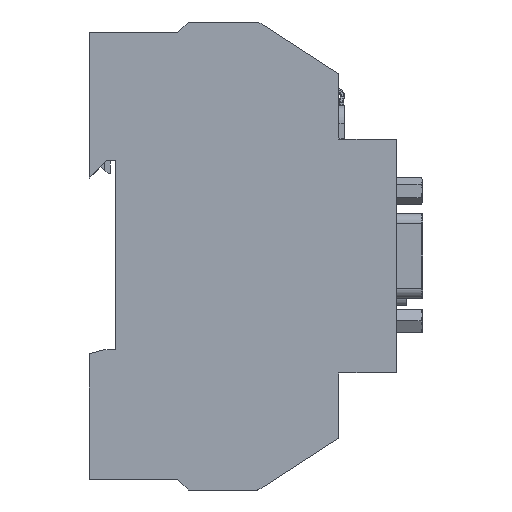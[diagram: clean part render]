
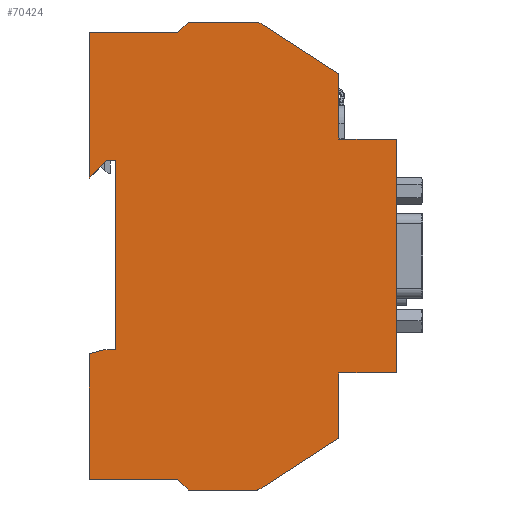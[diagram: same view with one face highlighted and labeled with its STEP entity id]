
A CAD part, left-side view. The second image highlights one B-rep face of the part: STEP entity #70424.
In plain terms, the highlighted planar face has unit normal (-1, 0, 0).
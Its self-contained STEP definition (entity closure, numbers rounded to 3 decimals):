
#19636=CARTESIAN_POINT('',(-36.0,-24.,79.728));
#19637=VERTEX_POINT('',#19636);
#19644=CARTESIAN_POINT('',(-36.,-24.,67.5));
#19645=VERTEX_POINT('',#19644);
#19646=CARTESIAN_POINT('',(-36.,-24.,67.5));
#19647=DIRECTION('',(0.0,0.0,1.0));
#19648=VECTOR('',#19647,12.228);
#19649=LINE('',#19646,#19648);
#19650=EDGE_CURVE('',#19645,#19637,#19649,.T.);
#24063=CARTESIAN_POINT('',(-36.,-35.,67.5));
#24064=VERTEX_POINT('',#24063);
#24065=CARTESIAN_POINT('',(-36.,-24.,67.5));
#24066=DIRECTION('',(0.0,-1.0,0.0));
#24067=VECTOR('',#24066,11.);
#24068=LINE('',#24065,#24067);
#24069=EDGE_CURVE('',#19645,#24064,#24068,.T.);
#59115=CARTESIAN_POINT('',(-36.0,-35.,22.5));
#59116=VERTEX_POINT('',#59115);
#59117=CARTESIAN_POINT('',(-36.0,-35.,22.5));
#59118=DIRECTION('',(0.0,0.0,1.0));
#59119=VECTOR('',#59118,45.0);
#59120=LINE('',#59117,#59119);
#59121=EDGE_CURVE('',#59116,#24064,#59120,.T.);
#62784=CARTESIAN_POINT('',(-36.0,19.,27.0));
#62785=VERTEX_POINT('',#62784);
#62792=CARTESIAN_POINT('',(-36.0,19.,63.367));
#62793=VERTEX_POINT('',#62792);
#62794=CARTESIAN_POINT('',(-36.0,19.,63.367));
#62795=DIRECTION('',(0.0,0.0,-1.0));
#62796=VECTOR('',#62795,36.367);
#62797=LINE('',#62794,#62796);
#62798=EDGE_CURVE('',#62793,#62785,#62797,.T.);
#63087=CARTESIAN_POINT('',(-36.0,24.,2.));
#63088=VERTEX_POINT('',#63087);
#63095=CARTESIAN_POINT('',(-36.0,24.,26.196));
#63096=VERTEX_POINT('',#63095);
#63097=CARTESIAN_POINT('',(-36.0,24.,2.));
#63098=DIRECTION('',(0.0,0.0,1.0));
#63099=VECTOR('',#63098,24.196);
#63100=LINE('',#63097,#63099);
#63101=EDGE_CURVE('',#63088,#63096,#63100,.T.);
#63806=CARTESIAN_POINT('',(-36.0,24.,88.0));
#63807=VERTEX_POINT('',#63806);
#63814=CARTESIAN_POINT('',(-36.0,7.,88.0));
#63815=VERTEX_POINT('',#63814);
#63816=CARTESIAN_POINT('',(-36.0,7.,88.0));
#63817=DIRECTION('',(0.0,1.0,0.0));
#63818=VECTOR('',#63817,17.);
#63819=LINE('',#63816,#63818);
#63820=EDGE_CURVE('',#63815,#63807,#63819,.T.);
#64105=CARTESIAN_POINT('',(-36.0,24.,60.));
#64106=VERTEX_POINT('',#64105);
#64113=CARTESIAN_POINT('',(-36.0,24.,60.));
#64114=DIRECTION('',(0.0,0.0,1.0));
#64115=VECTOR('',#64114,28.);
#64116=LINE('',#64113,#64115);
#64117=EDGE_CURVE('',#64106,#63807,#64116,.T.);
#64135=CARTESIAN_POINT('',(-36.0,21.,27.0));
#64136=VERTEX_POINT('',#64135);
#64137=CARTESIAN_POINT('',(-36.0,21.,27.0));
#64138=DIRECTION('',(0.0,0.966,-0.259));
#64139=VECTOR('',#64138,3.106);
#64140=LINE('',#64137,#64139);
#64141=EDGE_CURVE('',#64136,#63096,#64140,.T.);
#64183=CARTESIAN_POINT('',(-36.0,19.,27.0));
#64184=DIRECTION('',(0.0,1.0,0.0));
#64185=VECTOR('',#64184,2.);
#64186=LINE('',#64183,#64185);
#64187=EDGE_CURVE('',#62785,#64136,#64186,.T.);
#64218=CARTESIAN_POINT('',(-36.0,20.633,63.367));
#64219=VERTEX_POINT('',#64218);
#64226=CARTESIAN_POINT('',(-36.0,24.,60.));
#64227=DIRECTION('',(0.0,-0.707,0.707));
#64228=VECTOR('',#64227,4.762);
#64229=LINE('',#64226,#64228);
#64230=EDGE_CURVE('',#64106,#64219,#64229,.T.);
#64243=CARTESIAN_POINT('',(-36.0,20.633,63.367));
#64244=DIRECTION('',(0.0,-1.0,0.0));
#64245=VECTOR('',#64244,1.633);
#64246=LINE('',#64243,#64245);
#64247=EDGE_CURVE('',#64219,#62793,#64246,.T.);
#64742=CARTESIAN_POINT('',(-36.0,-24.,22.5));
#64743=VERTEX_POINT('',#64742);
#64750=CARTESIAN_POINT('',(-36.0,-24.,10.272));
#64751=VERTEX_POINT('',#64750);
#64752=CARTESIAN_POINT('',(-36.0,-24.,10.272));
#64753=DIRECTION('',(0.0,0.0,1.0));
#64754=VECTOR('',#64753,12.228);
#64755=LINE('',#64752,#64754);
#64756=EDGE_CURVE('',#64751,#64743,#64755,.T.);
#69605=CARTESIAN_POINT('',(-36.0,5.0,0.0));
#69606=VERTEX_POINT('',#69605);
#69613=CARTESIAN_POINT('',(-36.0,7.,2.));
#69614=VERTEX_POINT('',#69613);
#69615=CARTESIAN_POINT('',(-36.0,7.,2.));
#69616=DIRECTION('',(0.0,-0.707,-0.707));
#69617=VECTOR('',#69616,2.828);
#69618=LINE('',#69615,#69617);
#69619=EDGE_CURVE('',#69614,#69606,#69618,.T.);
#69636=CARTESIAN_POINT('',(-36.0,-8.353,0.));
#69637=VERTEX_POINT('',#69636);
#69644=CARTESIAN_POINT('',(-36.0,-8.353,0.));
#69645=DIRECTION('',(0.0,1.0,0.0));
#69646=VECTOR('',#69645,13.353);
#69647=LINE('',#69644,#69646);
#69648=EDGE_CURVE('',#69637,#69606,#69647,.T.);
#69762=CARTESIAN_POINT('',(-36.0,-23.771,9.852));
#69763=VERTEX_POINT('',#69762);
#69770=CARTESIAN_POINT('',(-36.0,-8.624,0.08));
#69771=VERTEX_POINT('',#69770);
#69772=CARTESIAN_POINT('',(-36.0,-8.624,0.08));
#69773=DIRECTION('',(0.0,-0.84,0.542));
#69774=VECTOR('',#69773,18.026);
#69775=LINE('',#69772,#69774);
#69776=EDGE_CURVE('',#69771,#69763,#69775,.T.);
#69806=CARTESIAN_POINT('',(-36.0,-8.353,0.5));
#69807=DIRECTION('',(-1.0,0.0,0.0));
#69808=DIRECTION('',(0.0,0.542,0.84));
#69809=AXIS2_PLACEMENT_3D('',#69806,#69807,#69808);
#69810=CIRCLE('',#69809,0.5);
#69811=EDGE_CURVE('',#69637,#69771,#69810,.T.);
#69857=CARTESIAN_POINT('',(-36.0,-23.5,10.272));
#69858=DIRECTION('',(-1.0,0.0,0.0));
#69859=DIRECTION('',(0.0,1.0,0.0));
#69860=AXIS2_PLACEMENT_3D('',#69857,#69858,#69859);
#69861=CIRCLE('',#69860,0.5);
#69862=EDGE_CURVE('',#69763,#64751,#69861,.T.);
#69882=CARTESIAN_POINT('',(-36.0,5.0,90.0));
#69883=VERTEX_POINT('',#69882);
#69884=CARTESIAN_POINT('',(-36.0,5.0,90.0));
#69885=DIRECTION('',(0.0,0.707,-0.707));
#69886=VECTOR('',#69885,2.828);
#69887=LINE('',#69884,#69886);
#69888=EDGE_CURVE('',#69883,#63815,#69887,.T.);
#69937=CARTESIAN_POINT('',(-36.0,-8.353,90.));
#69938=VERTEX_POINT('',#69937);
#69945=CARTESIAN_POINT('',(-36.0,-8.624,89.92));
#69946=VERTEX_POINT('',#69945);
#69947=CARTESIAN_POINT('',(-36.0,-8.353,89.5));
#69948=DIRECTION('',(-1.0,0.0,0.0));
#69949=DIRECTION('',(0.0,0.,-1.0));
#69950=AXIS2_PLACEMENT_3D('',#69947,#69948,#69949);
#69951=CIRCLE('',#69950,0.5);
#69952=EDGE_CURVE('',#69946,#69938,#69951,.T.);
#69977=CARTESIAN_POINT('',(-36.0,-23.771,80.148));
#69978=VERTEX_POINT('',#69977);
#69979=CARTESIAN_POINT('',(-36.0,-23.771,80.148));
#69980=DIRECTION('',(0.0,0.84,0.542));
#69981=VECTOR('',#69980,18.026);
#69982=LINE('',#69979,#69981);
#69983=EDGE_CURVE('',#69978,#69946,#69982,.T.);
#70220=CARTESIAN_POINT('',(-36.0,24.,2.));
#70221=DIRECTION('',(0.0,-1.0,0.0));
#70222=VECTOR('',#70221,17.);
#70223=LINE('',#70220,#70222);
#70224=EDGE_CURVE('',#63088,#69614,#70223,.T.);
#70242=CARTESIAN_POINT('',(-36.0,-23.5,79.728));
#70243=DIRECTION('',(-1.,0.0,0.0));
#70244=DIRECTION('',(0.0,0.542,-0.84));
#70245=AXIS2_PLACEMENT_3D('',#70242,#70243,#70244);
#70246=CIRCLE('',#70245,0.5);
#70247=EDGE_CURVE('',#19637,#69978,#70246,.T.);
#70377=CARTESIAN_POINT('',(-36.0,-24.,22.5));
#70378=DIRECTION('',(0.0,-1.0,0.0));
#70379=VECTOR('',#70378,11.);
#70380=LINE('',#70377,#70379);
#70381=EDGE_CURVE('',#64743,#59116,#70380,.T.);
#70388=CARTESIAN_POINT('',(-36.0,-24.,0.0));
#70389=DIRECTION('',(-1.0,0.0,0.0));
#70390=DIRECTION('',(0.0,0.0,1.0));
#70391=AXIS2_PLACEMENT_3D('',#70388,#70389,#70390);
#70392=PLANE('',#70391);
#70393=ORIENTED_EDGE('',*,*,#69862,.T.);
#70394=ORIENTED_EDGE('',*,*,#64756,.T.);
#70395=ORIENTED_EDGE('',*,*,#70381,.T.);
#70396=ORIENTED_EDGE('',*,*,#59121,.T.);
#70397=ORIENTED_EDGE('',*,*,#24069,.F.);
#70398=ORIENTED_EDGE('',*,*,#19650,.T.);
#70399=ORIENTED_EDGE('',*,*,#70247,.T.);
#70400=ORIENTED_EDGE('',*,*,#69983,.T.);
#70401=ORIENTED_EDGE('',*,*,#69952,.T.);
#70402=CARTESIAN_POINT('',(-36.0,-8.353,90.));
#70403=DIRECTION('',(0.0,1.0,0.0));
#70404=VECTOR('',#70403,13.353);
#70405=LINE('',#70402,#70404);
#70406=EDGE_CURVE('',#69938,#69883,#70405,.T.);
#70407=ORIENTED_EDGE('',*,*,#70406,.T.);
#70408=ORIENTED_EDGE('',*,*,#69888,.T.);
#70409=ORIENTED_EDGE('',*,*,#63820,.T.);
#70410=ORIENTED_EDGE('',*,*,#64117,.F.);
#70411=ORIENTED_EDGE('',*,*,#64230,.T.);
#70412=ORIENTED_EDGE('',*,*,#64247,.T.);
#70413=ORIENTED_EDGE('',*,*,#62798,.T.);
#70414=ORIENTED_EDGE('',*,*,#64187,.T.);
#70415=ORIENTED_EDGE('',*,*,#64141,.T.);
#70416=ORIENTED_EDGE('',*,*,#63101,.F.);
#70417=ORIENTED_EDGE('',*,*,#70224,.T.);
#70418=ORIENTED_EDGE('',*,*,#69619,.T.);
#70419=ORIENTED_EDGE('',*,*,#69648,.F.);
#70420=ORIENTED_EDGE('',*,*,#69811,.T.);
#70421=ORIENTED_EDGE('',*,*,#69776,.T.);
#70422=EDGE_LOOP('',(#70393,#70394,#70395,#70396,#70397,#70398,#70399,#70400,#70401,#70407,#70408,#70409,#70410,#70411,#70412,#70413,#70414,#70415,#70416,#70417,#70418,#70419,#70420,#70421));
#70423=FACE_OUTER_BOUND('',#70422,.T.);
#70424=ADVANCED_FACE('',(#70423),#70392,.T.);
